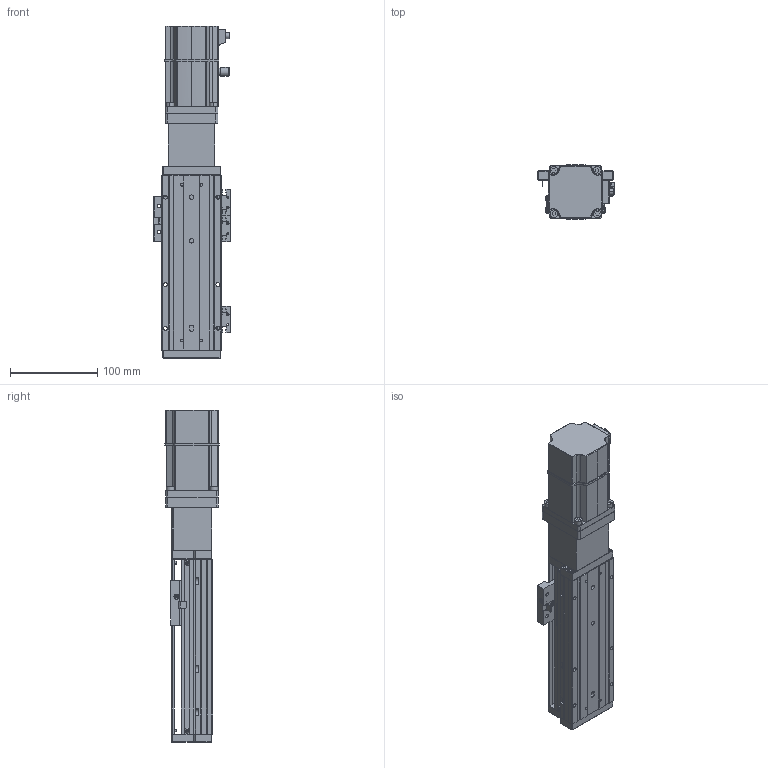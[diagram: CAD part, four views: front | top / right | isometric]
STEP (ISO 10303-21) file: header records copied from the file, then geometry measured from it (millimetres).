
FILE_DESCRIPTION (( 'STEP AP203' ), '1' );
FILE_NAME ('KTHA60-100-BC-M20-C4L.step', '2022-12-16T01:28:02', ( '微软用户' ), ( '微软中国' ), 'SwSTEP 2.0', 'SolidWorks 2020', '' );
FILE_SCHEMA (( 'CONFIG_CONTROL_DESIGN' ));
Length unit declared in the file: millimetre
Products named in the file (18): CTHA60-017; CTHA60-006-3_M20B; KTHA60-001_200; CTHA60-021; _X2_4E0983F1_X0_200W_1; KTHA60-004; GBT 70.1-M4×16; KTHA60-100-BC-M20-C4L; KTHA60-005; GBT77-2000M3-3; CTHA60-016; GB¨uT 70.2-M3¡Á5_M3¡Á6; GBT 70.1-M3℅6; CTHA60-013; GBT 70.3-M3℅6; CTHA60-027; EE_SX911P_R; KTHA60-002
Assembly tree (50 placements, depth 2):
  KTHA60-100-BC-M20-C4L
    KTHA60-001_200
    KTHA60-004
    KTHA60-005
    GB¨uT 70.2-M3¡Á5_M3¡Á6  x6
    GBT 70.3-M3℅6  x6
    EE_SX911P_R  x3
    CTHA60-017  x3
    CTHA60-021  x2
    GBT 70.1-M4×16  x8
    GBT77-2000M3-3  x6
    GBT 70.1-M3℅6  x6
    CTHA60-016  x2
    CTHA60-013
    CTHA60-027
    KTHA60-002
    CTHA60-006-3_M20B
    _X2_4E0983F1_X0_200W_1
Bounding box: 87.72 x 62.42 x 379.7 mm (x, y, z)
Volume: 886847.5 mm3; surface area: 198095.3 mm2
Topology: 53 solids, 53 shells, 2235 faces, 5259 edges, 3212 vertices
Faces by surface type: plane 1208, cylinder 570, cone 292, torus 80, bspline 69, sphere 16
Entity records: 38247 total; most frequent: CARTESIAN_POINT 7456, DIRECTION 5938, ORIENTED_EDGE 5722, EDGE_CURVE 2861, AXIS2_PLACEMENT_3D 2047, VECTOR 1844, LINE 1844, VERTEX_POINT 1779
